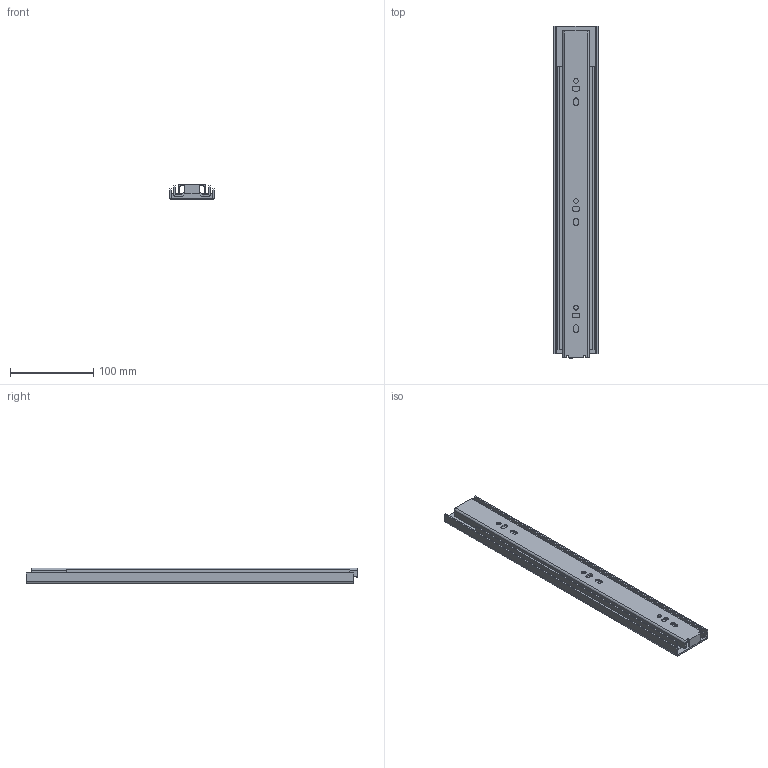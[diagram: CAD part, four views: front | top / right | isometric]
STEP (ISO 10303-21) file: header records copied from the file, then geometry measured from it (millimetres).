
FILE_DESCRIPTION((''),'2;1');
FILE_NAME('78A01_400_CLOSE_ASM','2020-09-01T15:16:28',('T170334'),(''),'CREO PARAMETRIC BY PTC INC, 2018260','CREO PARAMETRIC BY PTC INC, 2018260','');
FILE_SCHEMA(('CONFIG_CONTROL_DESIGN'));
Length unit declared in the file: millimetre
Products named in the file (5): OUT_400; MID_400; IN_400; MECHANISM_C; 78A01_400_CLOSE_ASM
Assembly tree (4 placements, depth 2):
  78A01_400_CLOSE_ASM
    OUT_400
    MID_400
    IN_400
    MECHANISM_C
Bounding box: 53.32 x 398 x 18.84 mm (x, y, z)
Volume: 141923.7 mm3; surface area: 149951.3 mm2
Topology: 4 solids, 4 shells, 158 faces, 446 edges, 296 vertices
Faces by surface type: plane 80, cylinder 78
Entity records: 5363 total; most frequent: CARTESIAN_POINT 949, DIRECTION 920, ORIENTED_EDGE 892, EDGE_CURVE 446, AXIS2_PLACEMENT_3D 315, VERTEX_POINT 296, VECTOR 290, LINE 290
